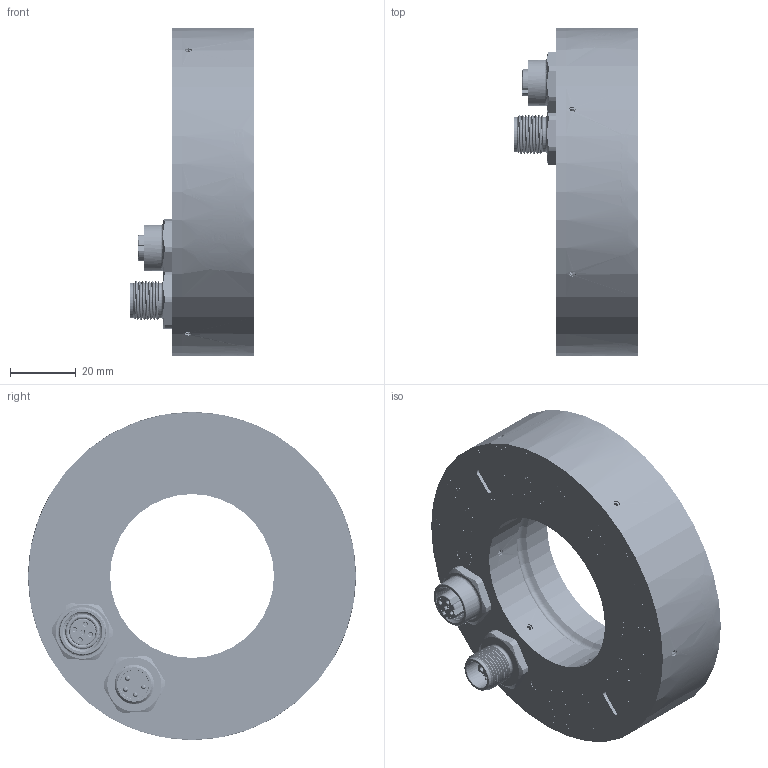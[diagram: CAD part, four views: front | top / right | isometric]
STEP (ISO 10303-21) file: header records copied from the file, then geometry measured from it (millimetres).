
FILE_DESCRIPTION (( 'STEP AP203' ), '1' );
FILE_NAME ('K0E011420_IC-BASE F 100_50_zum_Versenden.STEP', '2023-12-20T14:48:51', ( '' ), ( '' ), 'SwSTEP 2.0', 'SolidWorks 2023', '' );
FILE_SCHEMA (( 'CONFIG_CONTROL_DESIGN' ));
Length unit declared in the file: millimetre
Products named in the file (1): K0E011420_IC-BASE F 100_50_zum_Versenden
Bounding box: 37.8 x 100 x 100 mm (x, y, z)
Surface area: 65064.9 mm2 (no closed solid volume)
Topology: 0 solids, 30 shells, 6619 faces, 18367 edges, 12464 vertices
Faces by surface type: plane 3707, bspline 2012, cylinder 617, cone 182, torus 101
Entity records: 319649 total; most frequent: CARTESIAN_POINT 163635, ORIENTED_EDGE 36588, DIRECTION 24210, EDGE_CURVE 18355, VERTEX_POINT 12464, VECTOR 11836, LINE 11836, EDGE_LOOP 7373
